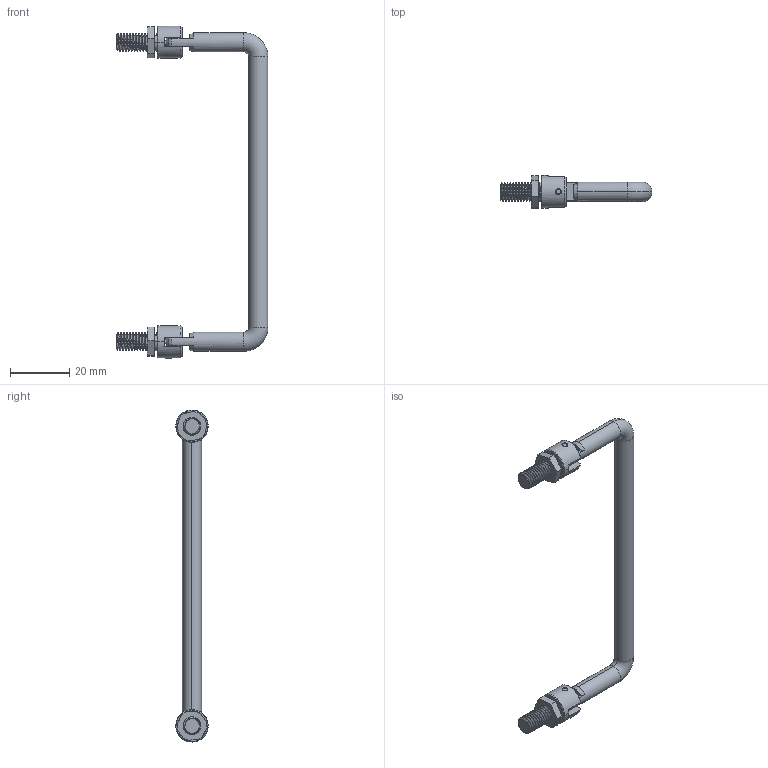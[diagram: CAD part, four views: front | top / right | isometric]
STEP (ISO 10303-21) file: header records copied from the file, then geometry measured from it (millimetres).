
FILE_DESCRIPTION (( 'STEP AP214' ), '1' );
FILE_NAME ('LS515 .STEP', '2023-06-28T01:05:48', ( 'Windows 蚚誧' ), ( '' ), 'SwSTEP 2.0', 'SolidWorks 2019', '' );
FILE_SCHEMA (( 'AUTOMOTIVE_DESIGN' ));
Length unit declared in the file: millimetre
Products named in the file (1): LS515 
Bounding box: 51.5 x 11.02 x 112.5 mm (x, y, z)
Volume: 7066.7 mm3; surface area: 6058.5 mm2
Topology: 15 solids, 15 shells, 566 faces, 1522 edges, 972 vertices
Faces by surface type: plane 306, cylinder 144, cone 90, torus 12, bspline 10, sphere 4
Entity records: 31540 total; most frequent: CARTESIAN_POINT 11761, ORIENTED_EDGE 3008, DIRECTION 2586, EDGE_CURVE 1504, VERTEX_POINT 966, AXIS2_PLACEMENT_3D 913, VECTOR 760, LINE 760
